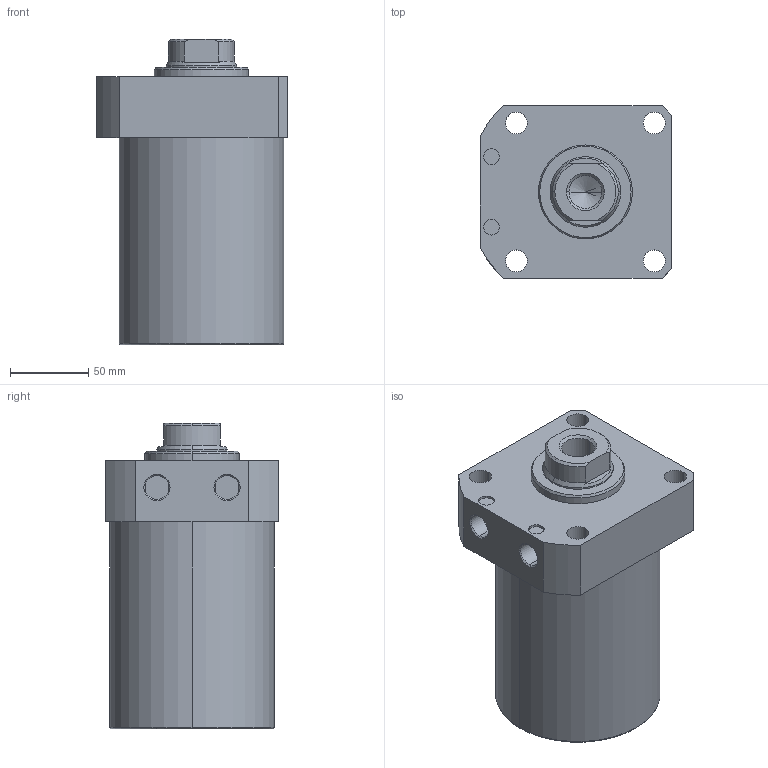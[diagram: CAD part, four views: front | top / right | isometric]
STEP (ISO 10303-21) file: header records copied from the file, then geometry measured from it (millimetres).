
FILE_DESCRIPTION (( 'STEP AP203' ), '1' );
FILE_NAME ('CLLR-105CA-085.STEP', '2019-12-18T07:05:56', ( '' ), ( '' ), 'SwSTEP 2.0', 'SolidWorks 2015', '' );
FILE_SCHEMA (( 'CONFIG_CONTROL_DESIGN' ));
Length unit declared in the file: millimetre
Products named in the file (1): CLLR-105CA-085
Bounding box: 122 x 110 x 195 mm (x, y, z)
Volume: 1640148.4 mm3; surface area: 102127.7 mm2
Topology: 1 solids, 1 shells, 65 faces, 153 edges, 96 vertices
Faces by surface type: cylinder 29, plane 19, cone 15, torus 2
Entity records: 1971 total; most frequent: DIRECTION 352, CARTESIAN_POINT 337, ORIENTED_EDGE 302, EDGE_CURVE 151, AXIS2_PLACEMENT_3D 143, VERTEX_POINT 96, EDGE_LOOP 81, CIRCLE 77
